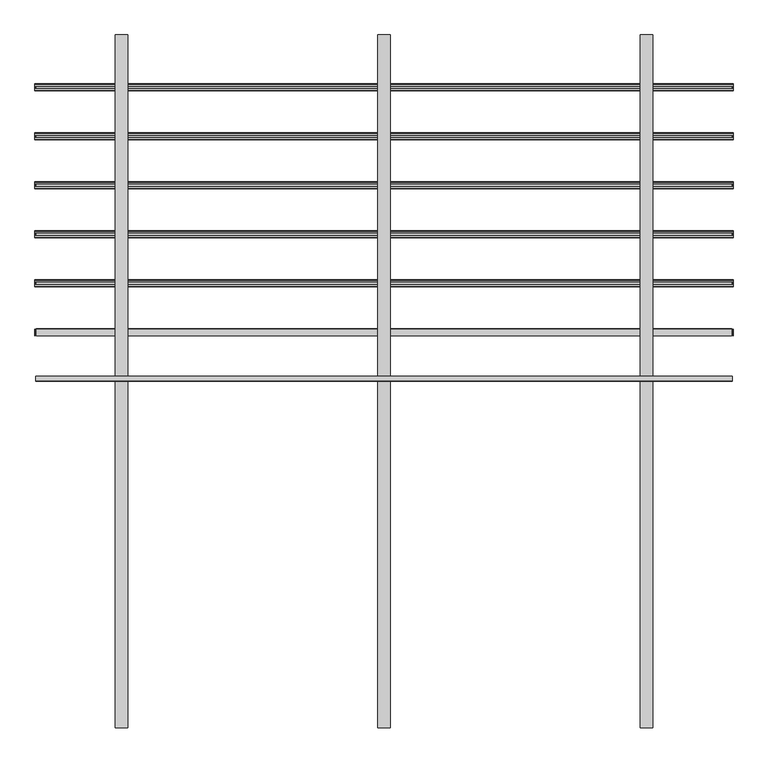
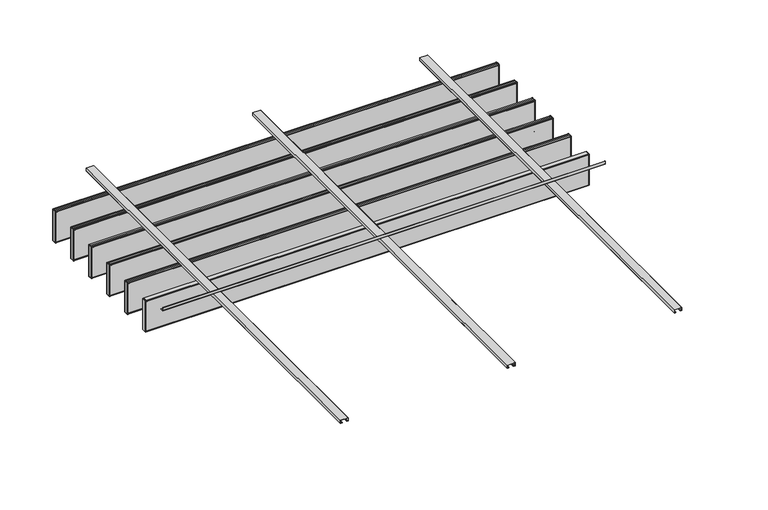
"""IFC4 building model written with IfcOpenShell, lengths in millimetres: proxy geometry, durlum_POLYLAM_KS : durlum_POLYLAM-KS/-S 40 RV-L6."""

from ifc_helpers import new_model, si_unit, point, frame, frame_2d, origin, place, context, project, spatial, polyline, circle_curve, trimmed, segment, composite_curve, outline, extrude, source, transform, mapped, element, save
from ifc_brep_helpers import plane_surface, cylinder_surface, advanced_brep


def generic_models_4996d795(model_context):
    return source(origin(), model_context, "Body", "SolidModel", [
        extrude(outline(polyline([(2027.0, 20.5), (2020.0, 20.5), (2020.0, 35.0), (2050.0, 35.0), (2050.0, -35.0), (2020.0, -35.0), (2020.0, -20.5), (2027.0, -20.5), (2027.0, -22.0), (2021.5, -22.0), (2021.5, -33.5), (2048.5, -33.5), (2048.5, 33.5), (2021.5, 33.5), (2021.5, 22.0), (2027.0, 22.0), (2027.0, 20.5)])), frame((0.0, -1980.0, 0.0), z_axis=(0.0, 1.0, 0.0), x_axis=(0.0, 0.0, 1.0)), (0.0, 0.0, 1.0), 3960.0),
        extrude(outline(polyline([(2027.0, -1479.5), (2020.0, -1479.5), (2020.0, -1465.0), (2050.0, -1465.0), (2050.0, -1535.0), (2020.0, -1535.0), (2020.0, -1520.5), (2027.0, -1520.5), (2027.0, -1522.0), (2021.5, -1522.0), (2021.5, -1533.5), (2048.5, -1533.5), (2048.5, -1466.5), (2021.5, -1466.5), (2021.5, -1478.0), (2027.0, -1478.0), (2027.0, -1479.5)])), frame((0.0, -1980.0, 0.0), z_axis=(0.0, 1.0, 0.0), x_axis=(0.0, 0.0, 1.0)), (0.0, 0.0, 1.0), 3960.0),
        extrude(outline(polyline([(2027.0, 1520.5), (2020.0, 1520.5), (2020.0, 1535.0), (2050.0, 1535.0), (2050.0, 1465.0), (2020.0, 1465.0), (2020.0, 1479.5), (2027.0, 1479.5), (2027.0, 1478.0), (2021.5, 1478.0), (2021.5, 1466.5), (2048.5, 1466.5), (2048.5, 1533.5), (2021.5, 1533.5), (2021.5, 1522.0), (2027.0, 1522.0), (2027.0, 1520.5)])), frame((0.0, -1980.0, 0.0), z_axis=(0.0, 1.0, 0.0), x_axis=(0.0, 0.0, 1.0)), (0.0, 0.0, 1.0), 3960.0),
        extrude(outline(composite_curve([segment(polyline([(2.0, 2079.9), (2.0, 2054.0)]), True, "CONTINUOUS"), segment(trimmed(circle_curve(frame_2d((4.0, 2054.0)), 2.0), [point((2.0, 2054.0))], [point((4.0, 2052.0))], True, "CARTESIAN"), True, "CONTINUOUS"), segment(polyline([(4.0, 2052.0), (29.9, 2052.0), (29.9, 2050.0), (4.0, 2050.0)]), True, "CONTINUOUS"), segment(trimmed(circle_curve(frame_2d((4.0, 2054.0)), 4.0), [point((4.0, 2050.0))], [point((0.0, 2054.0))], False, "CARTESIAN"), True, "CONTINUOUS"), segment(polyline([(0.0, 2054.0), (0.0, 2079.9), (2.0, 2079.9)]), True, "CONTINUOUS")], self_intersect=False)), frame((-1990.0, 0.0, 0.0), z_axis=(1.0, 0.0, 0.0), x_axis=(0.0, 1.0, 0.0)), (0.0, 0.0, 1.0), 3980.0),
        extrude(outline(polyline([(1993.0, 1699.0), (1995.0, 1699.0), (1995.0, 1661.0), (1993.0, 1661.0), (1993.0, 1699.0)])), frame((0.0, 0.0, 1691.9), z_axis=(0.0, 0.0, 1.0), x_axis=(1.0, 0.0, 0.0)), (0.0, 0.0, 1.0), 298.1604454),
        extrude(outline(polyline([(-1995.0, 1699.0), (-1993.0, 1699.0), (-1993.0, 1661.0), (-1995.0, 1661.0), (-1995.0, 1699.0)])), frame((0.0, 0.0, 1691.9), z_axis=(0.0, 0.0, 1.0), x_axis=(1.0, 0.0, 0.0)), (0.0, 0.0, 1.0), 298.1604454),
        extrude(outline(polyline([(1986.5, 1699.0), (1986.5, 1661.0), (-1986.5, 1661.0), (-1986.5, 1699.0), (1986.5, 1699.0)])), frame((0.0, 0.0, 1691.9), z_axis=(0.0, 0.0, 1.0), x_axis=(1.0, 0.0, 0.0)), (0.0, 0.0, 1.0), 298.0),
        extrude(outline(polyline([(1986.5, 1699.0), (-1986.5, 1699.0), (-1986.5, 1700.0), (1986.5, 1700.0), (1986.5, 1699.0)])), frame((0.0, 0.0, 1699.4), z_axis=(0.0, 0.0, 1.0), x_axis=(1.0, 0.0, 0.0)), (0.0, 0.0, 1.0), 283.0),
        extrude(outline(polyline([(1986.5, 1660.0), (-1986.5, 1660.0), (-1986.5, 1661.0), (1986.5, 1661.0), (1986.5, 1660.0)])), frame((0.0, 0.0, 1699.4), z_axis=(0.0, 0.0, 1.0), x_axis=(1.0, 0.0, 0.0)), (0.0, 0.0, 1.0), 283.0),
        advanced_brep(
        [(1995.0, 1698.0, 1990.9), (1995.0, 1688.0, 1990.9), (1995.0, 1688.0, 1990.0604454), (1995.0, 1699.0, 1990.0604454), (1995.0, 1699.0, 1691.9), (1995.0, 1661.0, 1691.9), (1995.0, 1661.0, 1989.8155735), (1995.0, 1672.0, 1989.8155735), (1995.0, 1672.0, 1990.9), (1995.0, 1662.0, 1990.9), (1995.0, 1660.0, 1988.9), (1995.0, 1660.0, 1692.9), (1995.0, 1662.0, 1690.9), (1995.0, 1698.0, 1690.9), (1995.0, 1700.0, 1692.9), (1995.0, 1700.0, 1988.9), (-1995.0, 1698.0, 1990.9), (-1995.0, 1700.0, 1988.9), (-1995.0, 1700.0, 1692.9), (-1995.0, 1698.0, 1690.9), (-1995.0, 1662.0, 1690.9), (-1995.0, 1660.0, 1692.9), (-1995.0, 1660.0, 1988.9), (-1995.0, 1662.0, 1990.9), (-1995.0, 1672.0, 1990.9), (-1995.0, 1672.0, 1989.8155735), (-1995.0, 1661.0, 1989.8155735), (-1995.0, 1661.0, 1691.9), (-1995.0, 1699.0, 1691.9), (-1995.0, 1699.0, 1990.0604454), (-1995.0, 1688.0, 1990.0604454), (-1995.0, 1688.0, 1990.9), (-1986.5, 1699.0, 1982.4), (1986.5, 1699.0, 1982.4), (1986.5, 1699.0, 1699.4), (-1986.5, 1699.0, 1699.4), (1986.5, 1661.0, 1982.4), (-1986.5, 1661.0, 1982.4), (-1986.5, 1661.0, 1699.4), (1986.5, 1661.0, 1699.4), (-1986.5, 1660.0, 1982.4), (1986.5, 1660.0, 1982.4), (1986.5, 1660.0, 1699.4), (-1986.5, 1660.0, 1699.4), (1986.5, 1700.0, 1982.4), (-1986.5, 1700.0, 1982.4), (-1986.5, 1700.0, 1699.4), (1986.5, 1700.0, 1699.4)],
        [
            (0, 1),
            (1, 2),
            (2, 3),
            (3, 4),
            (4, 5),
            (5, 6),
            (6, 7),
            (7, 8),
            (8, 9),
            (9, 10, circle_curve(frame((1995.0, 1662.0, 1988.9), z_axis=(1.0, 0.0, 0.0), x_axis=(0.0, 1.0, 0.0)), 2.0)),
            (10, 11),
            (11, 12, circle_curve(frame((1995.0, 1662.0, 1692.9), z_axis=(1.0, 0.0, 0.0), x_axis=(0.0, 1.0, 0.0)), 2.0)),
            (12, 13),
            (13, 14, circle_curve(frame((1995.0, 1698.0, 1692.9), z_axis=(1.0, 0.0, 0.0), x_axis=(0.0, 1.0, 0.0)), 2.0)),
            (14, 15),
            (15, 0, circle_curve(frame((1995.0, 1698.0, 1988.9), z_axis=(1.0, 0.0, 0.0), x_axis=(0.0, 1.0, 0.0)), 2.0)),
            (16, 17, circle_curve(frame((-1995.0, 1698.0, 1988.9), z_axis=(-1.0, 0.0, 0.0), x_axis=(0.0, 1.0, 0.0)), 2.0)),
            (17, 18),
            (18, 19, circle_curve(frame((-1995.0, 1698.0, 1692.9), z_axis=(-1.0, 0.0, 0.0), x_axis=(0.0, 1.0, 0.0)), 2.0)),
            (19, 20),
            (20, 21, circle_curve(frame((-1995.0, 1662.0, 1692.9), z_axis=(-1.0, 0.0, 0.0), x_axis=(0.0, 1.0, 0.0)), 2.0)),
            (21, 22),
            (22, 23, circle_curve(frame((-1995.0, 1662.0, 1988.9), z_axis=(-1.0, 0.0, 0.0), x_axis=(0.0, 1.0, 0.0)), 2.0)),
            (23, 24),
            (24, 25),
            (25, 26),
            (26, 27),
            (27, 28),
            (28, 29),
            (29, 30),
            (30, 31),
            (31, 16),
            (0, 16),
            (31, 1),
            (30, 2),
            (29, 3),
            (28, 4),
            (32, 33),
            (33, 34),
            (34, 35),
            (35, 32),
            (27, 5),
            (26, 6),
            (36, 37),
            (37, 38),
            (38, 39),
            (39, 36),
            (25, 7),
            (24, 8),
            (23, 9),
            (10, 22),
            (21, 11),
            (40, 41),
            (41, 42),
            (42, 43),
            (43, 40),
            (12, 20),
            (19, 13),
            (14, 18),
            (17, 15),
            (44, 45),
            (45, 46),
            (46, 47),
            (47, 44),
            (44, 33),
            (32, 45),
            (36, 41),
            (40, 37),
            (35, 46),
            (43, 38),
            (34, 47),
            (42, 39),
        ],
        [
            plane_surface(frame((1995.0, 1688.0, 1990.9), z_axis=(1.0, 0.0, 0.0), x_axis=(0.0, -1.0, 0.0))),
            plane_surface(frame((-1995.0, 1688.0, 1990.9), z_axis=(-1.0, 0.0, 0.0), x_axis=(0.0, 1.0, 0.0))),
            plane_surface(frame((1995.0, 1698.0, 1990.9), z_axis=(0.0, 0.0, 1.0), x_axis=(-1.0, 0.0, 0.0))),
            plane_surface(frame((1995.0, 1688.0, 1990.9), z_axis=(0.0, -1.0, 0.0), x_axis=(-1.0, 0.0, 0.0))),
            plane_surface(frame((1995.0, 1688.0, 1990.0604454), z_axis=(0.0, 0.0, -1.0), x_axis=(-1.0, 0.0, 0.0))),
            plane_surface(frame((1995.0, 1699.0, 1990.0604454), z_axis=(0.0, -1.0, 0.0), x_axis=(-1.0, 0.0, 0.0))),
            plane_surface(frame((1995.0, 1699.0, 1691.9), z_axis=(0.0, 0.0, 1.0), x_axis=(-1.0, 0.0, 0.0))),
            plane_surface(frame((1995.0, 1661.0, 1691.9), z_axis=(0.0, 1.0, 0.0), x_axis=(-1.0, 0.0, 0.0))),
            plane_surface(frame((1995.0, 1661.0, 1989.8155735), z_axis=(0.0, 0.0, -1.0), x_axis=(-1.0, 0.0, 0.0))),
            plane_surface(frame((1995.0, 1672.0, 1989.8155735), z_axis=(0.0, 1.0, 0.0), x_axis=(-1.0, 0.0, 0.0))),
            plane_surface(frame((1995.0, 1672.0, 1990.9), z_axis=(0.0, 0.0, 1.0), x_axis=(-1.0, 0.0, 0.0))),
            plane_surface(frame((1995.0, 1660.0, 1988.9), z_axis=(0.0, -1.0, 0.0), x_axis=(-1.0, 0.0, 0.0))),
            plane_surface(frame((1995.0, 1662.0, 1690.9), z_axis=(0.0, 0.0, -1.0), x_axis=(-1.0, 0.0, 0.0))),
            plane_surface(frame((1995.0, 1700.0, 1692.9), z_axis=(0.0, 1.0, 0.0), x_axis=(-1.0, 0.0, 0.0))),
            cylinder_surface(frame((-1995.0, 1662.0, 1988.9), z_axis=(1.0, 0.0, 0.0), x_axis=(0.0, 1.0, 0.0)), 2.0),
            cylinder_surface(frame((-1995.0, 1662.0, 1692.9), z_axis=(1.0, 0.0, 0.0), x_axis=(0.0, 1.0, 0.0)), 2.0),
            cylinder_surface(frame((-1995.0, 1698.0, 1692.9), z_axis=(1.0, 0.0, 0.0), x_axis=(0.0, 1.0, 0.0)), 2.0),
            cylinder_surface(frame((-1995.0, 1698.0, 1988.9), z_axis=(1.0, 0.0, 0.0), x_axis=(0.0, 1.0, 0.0)), 2.0),
            plane_surface(frame((1986.5, 1660.0, 1982.4), z_axis=(0.0, 0.0, -1.0), x_axis=(0.0, 1.0, 0.0))),
            plane_surface(frame((-1986.5, 1660.0, 1982.4), z_axis=(1.0, 0.0, 0.0), x_axis=(0.0, 1.0, 0.0))),
            plane_surface(frame((-1986.5, 1660.0, 1699.4), z_axis=(0.0, 0.0, 1.0), x_axis=(0.0, 1.0, 0.0))),
            plane_surface(frame((1986.5, 1660.0, 1699.4), z_axis=(-1.0, 0.0, 0.0), x_axis=(0.0, 1.0, 0.0))),
        ],
        [
            (0, [[1, 2, 3, 4, 5, 6, 7, 8, 9, 10, 11, 12, 13, 14, 15, 16]]),
            (1, [[17, 18, 19, 20, 21, 22, 23, 24, 25, 26, 27, 28, 29, 30, 31, 32]]),
            (2, [[-1, 33, -32, 34]]),
            (3, [[-2, -34, -31, 35]]),
            (4, [[-3, -35, -30, 36]]),
            (5, [[-4, -36, -29, 37], [38, 39, 40, 41]]),
            (6, [[-5, -37, -28, 42]]),
            (7, [[-6, -42, -27, 43], [44, 45, 46, 47]]),
            (8, [[-7, -43, -26, 48]]),
            (9, [[-8, -48, -25, 49]]),
            (10, [[-9, -49, -24, 50]]),
            (11, [[-11, 51, -22, 52], [53, 54, 55, 56]]),
            (12, [[-13, 57, -20, 58]]),
            (13, [[-15, 59, -18, 60], [61, 62, 63, 64]]),
            (14, [[-10, -50, -23, -51]]),
            (15, [[-12, -52, -21, -57]]),
            (16, [[-14, -58, -19, -59]]),
            (17, [[-16, -60, -17, -33]]),
            (18, [[65, -38, 66, -61]]),
            (18, [[67, -53, 68, -44]]),
            (19, [[-66, -41, 69, -62]]),
            (19, [[-68, -56, 70, -45]]),
            (20, [[-69, -40, 71, -63]]),
            (20, [[-70, -55, 72, -46]]),
            (21, [[-65, -64, -71, -39]]),
            (21, [[-67, -47, -72, -54]]),
        ],
    ),
        extrude(outline(polyline([(1993.0, 1419.0), (1995.0, 1419.0), (1995.0, 1381.0), (1993.0, 1381.0), (1993.0, 1419.0)])), frame((0.0, 0.0, 1691.9), z_axis=(0.0, 0.0, 1.0), x_axis=(1.0, 0.0, 0.0)), (0.0, 0.0, 1.0), 298.1604454),
        extrude(outline(polyline([(-1995.0, 1419.0), (-1993.0, 1419.0), (-1993.0, 1381.0), (-1995.0, 1381.0), (-1995.0, 1419.0)])), frame((0.0, 0.0, 1691.9), z_axis=(0.0, 0.0, 1.0), x_axis=(1.0, 0.0, 0.0)), (0.0, 0.0, 1.0), 298.1604454),
        extrude(outline(polyline([(1986.5, 1419.0), (1986.5, 1381.0), (-1986.5, 1381.0), (-1986.5, 1419.0), (1986.5, 1419.0)])), frame((0.0, 0.0, 1691.9), z_axis=(0.0, 0.0, 1.0), x_axis=(1.0, 0.0, 0.0)), (0.0, 0.0, 1.0), 298.0),
        extrude(outline(polyline([(1986.5, 1419.0), (-1986.5, 1419.0), (-1986.5, 1420.0), (1986.5, 1420.0), (1986.5, 1419.0)])), frame((0.0, 0.0, 1699.4), z_axis=(0.0, 0.0, 1.0), x_axis=(1.0, 0.0, 0.0)), (0.0, 0.0, 1.0), 283.0),
        extrude(outline(polyline([(1986.5, 1380.0), (-1986.5, 1380.0), (-1986.5, 1381.0), (1986.5, 1381.0), (1986.5, 1380.0)])), frame((0.0, 0.0, 1699.4), z_axis=(0.0, 0.0, 1.0), x_axis=(1.0, 0.0, 0.0)), (0.0, 0.0, 1.0), 283.0),
        advanced_brep(
        [(1995.0, 1418.0, 1990.9), (1995.0, 1408.0, 1990.9), (1995.0, 1408.0, 1990.0604454), (1995.0, 1419.0, 1990.0604454), (1995.0, 1419.0, 1691.9), (1995.0, 1381.0, 1691.9), (1995.0, 1381.0, 1989.8155735), (1995.0, 1392.0, 1989.8155735), (1995.0, 1392.0, 1990.9), (1995.0, 1382.0, 1990.9), (1995.0, 1380.0, 1988.9), (1995.0, 1380.0, 1692.9), (1995.0, 1382.0, 1690.9), (1995.0, 1418.0, 1690.9), (1995.0, 1420.0, 1692.9), (1995.0, 1420.0, 1988.9), (-1995.0, 1418.0, 1990.9), (-1995.0, 1420.0, 1988.9), (-1995.0, 1420.0, 1692.9), (-1995.0, 1418.0, 1690.9), (-1995.0, 1382.0, 1690.9), (-1995.0, 1380.0, 1692.9), (-1995.0, 1380.0, 1988.9), (-1995.0, 1382.0, 1990.9), (-1995.0, 1392.0, 1990.9), (-1995.0, 1392.0, 1989.8155735), (-1995.0, 1381.0, 1989.8155735), (-1995.0, 1381.0, 1691.9), (-1995.0, 1419.0, 1691.9), (-1995.0, 1419.0, 1990.0604454), (-1995.0, 1408.0, 1990.0604454), (-1995.0, 1408.0, 1990.9), (-1986.5, 1419.0, 1982.4), (1986.5, 1419.0, 1982.4), (1986.5, 1419.0, 1699.4), (-1986.5, 1419.0, 1699.4), (1986.5, 1381.0, 1982.4), (-1986.5, 1381.0, 1982.4), (-1986.5, 1381.0, 1699.4), (1986.5, 1381.0, 1699.4), (-1986.5, 1380.0, 1982.4), (1986.5, 1380.0, 1982.4), (1986.5, 1380.0, 1699.4), (-1986.5, 1380.0, 1699.4), (1986.5, 1420.0, 1982.4), (-1986.5, 1420.0, 1982.4), (-1986.5, 1420.0, 1699.4), (1986.5, 1420.0, 1699.4)],
        [
            (0, 1),
            (1, 2),
            (2, 3),
            (3, 4),
            (4, 5),
            (5, 6),
            (6, 7),
            (7, 8),
            (8, 9),
            (9, 10, circle_curve(frame((1995.0, 1382.0, 1988.9), z_axis=(1.0, 0.0, 0.0), x_axis=(0.0, 1.0, 0.0)), 2.0)),
            (10, 11),
            (11, 12, circle_curve(frame((1995.0, 1382.0, 1692.9), z_axis=(1.0, 0.0, 0.0), x_axis=(0.0, 1.0, 0.0)), 2.0)),
            (12, 13),
            (13, 14, circle_curve(frame((1995.0, 1418.0, 1692.9), z_axis=(1.0, 0.0, 0.0), x_axis=(0.0, 1.0, 0.0)), 2.0)),
            (14, 15),
            (15, 0, circle_curve(frame((1995.0, 1418.0, 1988.9), z_axis=(1.0, 0.0, 0.0), x_axis=(0.0, 1.0, 0.0)), 2.0)),
            (16, 17, circle_curve(frame((-1995.0, 1418.0, 1988.9), z_axis=(-1.0, 0.0, 0.0), x_axis=(0.0, 1.0, 0.0)), 2.0)),
            (17, 18),
            (18, 19, circle_curve(frame((-1995.0, 1418.0, 1692.9), z_axis=(-1.0, 0.0, 0.0), x_axis=(0.0, 1.0, 0.0)), 2.0)),
            (19, 20),
            (20, 21, circle_curve(frame((-1995.0, 1382.0, 1692.9), z_axis=(-1.0, 0.0, 0.0), x_axis=(0.0, 1.0, 0.0)), 2.0)),
            (21, 22),
            (22, 23, circle_curve(frame((-1995.0, 1382.0, 1988.9), z_axis=(-1.0, 0.0, 0.0), x_axis=(0.0, 1.0, 0.0)), 2.0)),
            (23, 24),
            (24, 25),
            (25, 26),
            (26, 27),
            (27, 28),
            (28, 29),
            (29, 30),
            (30, 31),
            (31, 16),
            (0, 16),
            (31, 1),
            (30, 2),
            (29, 3),
            (28, 4),
            (32, 33),
            (33, 34),
            (34, 35),
            (35, 32),
            (27, 5),
            (26, 6),
            (36, 37),
            (37, 38),
            (38, 39),
            (39, 36),
            (25, 7),
            (24, 8),
            (23, 9),
            (10, 22),
            (21, 11),
            (40, 41),
            (41, 42),
            (42, 43),
            (43, 40),
            (12, 20),
            (19, 13),
            (14, 18),
            (17, 15),
            (44, 45),
            (45, 46),
            (46, 47),
            (47, 44),
            (44, 33),
            (32, 45),
            (36, 41),
            (40, 37),
            (35, 46),
            (43, 38),
            (34, 47),
            (42, 39),
        ],
        [
            plane_surface(frame((1995.0, 1408.0, 1990.9), z_axis=(1.0, 0.0, 0.0), x_axis=(0.0, -1.0, 0.0))),
            plane_surface(frame((-1995.0, 1408.0, 1990.9), z_axis=(-1.0, 0.0, 0.0), x_axis=(0.0, 1.0, 0.0))),
            plane_surface(frame((1995.0, 1418.0, 1990.9), z_axis=(0.0, 0.0, 1.0), x_axis=(-1.0, 0.0, 0.0))),
            plane_surface(frame((1995.0, 1408.0, 1990.9), z_axis=(0.0, -1.0, 0.0), x_axis=(-1.0, 0.0, 0.0))),
            plane_surface(frame((1995.0, 1408.0, 1990.0604454), z_axis=(0.0, 0.0, -1.0), x_axis=(-1.0, 0.0, 0.0))),
            plane_surface(frame((1995.0, 1419.0, 1990.0604454), z_axis=(0.0, -1.0, 0.0), x_axis=(-1.0, 0.0, 0.0))),
            plane_surface(frame((1995.0, 1419.0, 1691.9), z_axis=(0.0, 0.0, 1.0), x_axis=(-1.0, 0.0, 0.0))),
            plane_surface(frame((1995.0, 1381.0, 1691.9), z_axis=(0.0, 1.0, 0.0), x_axis=(-1.0, 0.0, 0.0))),
            plane_surface(frame((1995.0, 1381.0, 1989.8155735), z_axis=(0.0, 0.0, -1.0), x_axis=(-1.0, 0.0, 0.0))),
            plane_surface(frame((1995.0, 1392.0, 1989.8155735), z_axis=(0.0, 1.0, 0.0), x_axis=(-1.0, 0.0, 0.0))),
            plane_surface(frame((1995.0, 1392.0, 1990.9), z_axis=(0.0, 0.0, 1.0), x_axis=(-1.0, 0.0, 0.0))),
            plane_surface(frame((1995.0, 1380.0, 1988.9), z_axis=(0.0, -1.0, 0.0), x_axis=(-1.0, 0.0, 0.0))),
            plane_surface(frame((1995.0, 1382.0, 1690.9), z_axis=(0.0, 0.0, -1.0), x_axis=(-1.0, 0.0, 0.0))),
            plane_surface(frame((1995.0, 1420.0, 1692.9), z_axis=(0.0, 1.0, 0.0), x_axis=(-1.0, 0.0, 0.0))),
            cylinder_surface(frame((-1995.0, 1382.0, 1988.9), z_axis=(1.0, 0.0, 0.0), x_axis=(0.0, 1.0, 0.0)), 2.0),
            cylinder_surface(frame((-1995.0, 1382.0, 1692.9), z_axis=(1.0, 0.0, 0.0), x_axis=(0.0, 1.0, 0.0)), 2.0),
            cylinder_surface(frame((-1995.0, 1418.0, 1692.9), z_axis=(1.0, 0.0, 0.0), x_axis=(0.0, 1.0, 0.0)), 2.0),
            cylinder_surface(frame((-1995.0, 1418.0, 1988.9), z_axis=(1.0, 0.0, 0.0), x_axis=(0.0, 1.0, 0.0)), 2.0),
            plane_surface(frame((1986.5, 1380.0, 1982.4), z_axis=(0.0, 0.0, -1.0), x_axis=(0.0, 1.0, 0.0))),
            plane_surface(frame((-1986.5, 1380.0, 1982.4), z_axis=(1.0, 0.0, 0.0), x_axis=(0.0, 1.0, 0.0))),
            plane_surface(frame((-1986.5, 1380.0, 1699.4), z_axis=(0.0, 0.0, 1.0), x_axis=(0.0, 1.0, 0.0))),
            plane_surface(frame((1986.5, 1380.0, 1699.4), z_axis=(-1.0, 0.0, 0.0), x_axis=(0.0, 1.0, 0.0))),
        ],
        [
            (0, [[1, 2, 3, 4, 5, 6, 7, 8, 9, 10, 11, 12, 13, 14, 15, 16]]),
            (1, [[17, 18, 19, 20, 21, 22, 23, 24, 25, 26, 27, 28, 29, 30, 31, 32]]),
            (2, [[-1, 33, -32, 34]]),
            (3, [[-2, -34, -31, 35]]),
            (4, [[-3, -35, -30, 36]]),
            (5, [[-4, -36, -29, 37], [38, 39, 40, 41]]),
            (6, [[-5, -37, -28, 42]]),
            (7, [[-6, -42, -27, 43], [44, 45, 46, 47]]),
            (8, [[-7, -43, -26, 48]]),
            (9, [[-8, -48, -25, 49]]),
            (10, [[-9, -49, -24, 50]]),
            (11, [[-11, 51, -22, 52], [53, 54, 55, 56]]),
            (12, [[-13, 57, -20, 58]]),
            (13, [[-15, 59, -18, 60], [61, 62, 63, 64]]),
            (14, [[-10, -50, -23, -51]]),
            (15, [[-12, -52, -21, -57]]),
            (16, [[-14, -58, -19, -59]]),
            (17, [[-16, -60, -17, -33]]),
            (18, [[65, -38, 66, -61]]),
            (18, [[67, -53, 68, -44]]),
            (19, [[-66, -41, 69, -62]]),
            (19, [[-68, -56, 70, -45]]),
            (20, [[-69, -40, 71, -63]]),
            (20, [[-70, -55, 72, -46]]),
            (21, [[-65, -64, -71, -39]]),
            (21, [[-67, -47, -72, -54]]),
        ],
    ),
        extrude(outline(polyline([(1993.0, 1139.0), (1995.0, 1139.0), (1995.0, 1101.0), (1993.0, 1101.0), (1993.0, 1139.0)])), frame((0.0, 0.0, 1691.9), z_axis=(0.0, 0.0, 1.0), x_axis=(1.0, 0.0, 0.0)), (0.0, 0.0, 1.0), 298.1604454),
        extrude(outline(polyline([(-1995.0, 1139.0), (-1993.0, 1139.0), (-1993.0, 1101.0), (-1995.0, 1101.0), (-1995.0, 1139.0)])), frame((0.0, 0.0, 1691.9), z_axis=(0.0, 0.0, 1.0), x_axis=(1.0, 0.0, 0.0)), (0.0, 0.0, 1.0), 298.1604454),
        extrude(outline(polyline([(1986.5, 1139.0), (1986.5, 1101.0), (-1986.5, 1101.0), (-1986.5, 1139.0), (1986.5, 1139.0)])), frame((0.0, 0.0, 1691.9), z_axis=(0.0, 0.0, 1.0), x_axis=(1.0, 0.0, 0.0)), (0.0, 0.0, 1.0), 298.0),
        extrude(outline(polyline([(1986.5, 1139.0), (-1986.5, 1139.0), (-1986.5, 1140.0), (1986.5, 1140.0), (1986.5, 1139.0)])), frame((0.0, 0.0, 1699.4), z_axis=(0.0, 0.0, 1.0), x_axis=(1.0, 0.0, 0.0)), (0.0, 0.0, 1.0), 283.0),
        extrude(outline(polyline([(1986.5, 1100.0), (-1986.5, 1100.0), (-1986.5, 1101.0), (1986.5, 1101.0), (1986.5, 1100.0)])), frame((0.0, 0.0, 1699.4), z_axis=(0.0, 0.0, 1.0), x_axis=(1.0, 0.0, 0.0)), (0.0, 0.0, 1.0), 283.0),
        advanced_brep(
        [(1995.0, 1138.0, 1990.9), (1995.0, 1128.0, 1990.9), (1995.0, 1128.0, 1990.0604454), (1995.0, 1139.0, 1990.0604454), (1995.0, 1139.0, 1691.9), (1995.0, 1101.0, 1691.9), (1995.0, 1101.0, 1989.8155735), (1995.0, 1112.0, 1989.8155735), (1995.0, 1112.0, 1990.9), (1995.0, 1102.0, 1990.9), (1995.0, 1100.0, 1988.9), (1995.0, 1100.0, 1692.9), (1995.0, 1102.0, 1690.9), (1995.0, 1138.0, 1690.9), (1995.0, 1140.0, 1692.9), (1995.0, 1140.0, 1988.9), (-1995.0, 1138.0, 1990.9), (-1995.0, 1140.0, 1988.9), (-1995.0, 1140.0, 1692.9), (-1995.0, 1138.0, 1690.9), (-1995.0, 1102.0, 1690.9), (-1995.0, 1100.0, 1692.9), (-1995.0, 1100.0, 1988.9), (-1995.0, 1102.0, 1990.9), (-1995.0, 1112.0, 1990.9), (-1995.0, 1112.0, 1989.8155735), (-1995.0, 1101.0, 1989.8155735), (-1995.0, 1101.0, 1691.9), (-1995.0, 1139.0, 1691.9), (-1995.0, 1139.0, 1990.0604454), (-1995.0, 1128.0, 1990.0604454), (-1995.0, 1128.0, 1990.9), (-1986.5, 1139.0, 1982.4), (1986.5, 1139.0, 1982.4), (1986.5, 1139.0, 1699.4), (-1986.5, 1139.0, 1699.4), (1986.5, 1101.0, 1982.4), (-1986.5, 1101.0, 1982.4), (-1986.5, 1101.0, 1699.4), (1986.5, 1101.0, 1699.4), (-1986.5, 1100.0, 1982.4), (1986.5, 1100.0, 1982.4), (1986.5, 1100.0, 1699.4), (-1986.5, 1100.0, 1699.4), (1986.5, 1140.0, 1982.4), (-1986.5, 1140.0, 1982.4), (-1986.5, 1140.0, 1699.4), (1986.5, 1140.0, 1699.4)],
        [
            (0, 1),
            (1, 2),
            (2, 3),
            (3, 4),
            (4, 5),
            (5, 6),
            (6, 7),
            (7, 8),
            (8, 9),
            (9, 10, circle_curve(frame((1995.0, 1102.0, 1988.9), z_axis=(1.0, 0.0, 0.0), x_axis=(0.0, 1.0, 0.0)), 2.0)),
            (10, 11),
            (11, 12, circle_curve(frame((1995.0, 1102.0, 1692.9), z_axis=(1.0, 0.0, 0.0), x_axis=(0.0, 1.0, 0.0)), 2.0)),
            (12, 13),
            (13, 14, circle_curve(frame((1995.0, 1138.0, 1692.9), z_axis=(1.0, 0.0, 0.0), x_axis=(0.0, 1.0, 0.0)), 2.0)),
            (14, 15),
            (15, 0, circle_curve(frame((1995.0, 1138.0, 1988.9), z_axis=(1.0, 0.0, 0.0), x_axis=(0.0, 1.0, 0.0)), 2.0)),
            (16, 17, circle_curve(frame((-1995.0, 1138.0, 1988.9), z_axis=(-1.0, 0.0, 0.0), x_axis=(0.0, 1.0, 0.0)), 2.0)),
            (17, 18),
            (18, 19, circle_curve(frame((-1995.0, 1138.0, 1692.9), z_axis=(-1.0, 0.0, 0.0), x_axis=(0.0, 1.0, 0.0)), 2.0)),
            (19, 20),
            (20, 21, circle_curve(frame((-1995.0, 1102.0, 1692.9), z_axis=(-1.0, 0.0, 0.0), x_axis=(0.0, 1.0, 0.0)), 2.0)),
            (21, 22),
            (22, 23, circle_curve(frame((-1995.0, 1102.0, 1988.9), z_axis=(-1.0, 0.0, 0.0), x_axis=(0.0, 1.0, 0.0)), 2.0)),
            (23, 24),
            (24, 25),
            (25, 26),
            (26, 27),
            (27, 28),
            (28, 29),
            (29, 30),
            (30, 31),
            (31, 16),
            (0, 16),
            (31, 1),
            (30, 2),
            (29, 3),
            (28, 4),
            (32, 33),
            (33, 34),
            (34, 35),
            (35, 32),
            (27, 5),
            (26, 6),
            (36, 37),
            (37, 38),
            (38, 39),
            (39, 36),
            (25, 7),
            (24, 8),
            (23, 9),
            (10, 22),
            (21, 11),
            (40, 41),
            (41, 42),
            (42, 43),
            (43, 40),
            (12, 20),
            (19, 13),
            (14, 18),
            (17, 15),
            (44, 45),
            (45, 46),
            (46, 47),
            (47, 44),
            (44, 33),
            (32, 45),
            (36, 41),
            (40, 37),
            (35, 46),
            (43, 38),
            (34, 47),
            (42, 39),
        ],
        [
            plane_surface(frame((1995.0, 1128.0, 1990.9), z_axis=(1.0, 0.0, 0.0), x_axis=(0.0, -1.0, 0.0))),
            plane_surface(frame((-1995.0, 1128.0, 1990.9), z_axis=(-1.0, 0.0, 0.0), x_axis=(0.0, 1.0, 0.0))),
            plane_surface(frame((1995.0, 1138.0, 1990.9), z_axis=(0.0, 0.0, 1.0), x_axis=(-1.0, 0.0, 0.0))),
            plane_surface(frame((1995.0, 1128.0, 1990.9), z_axis=(0.0, -1.0, 0.0), x_axis=(-1.0, 0.0, 0.0))),
            plane_surface(frame((1995.0, 1128.0, 1990.0604454), z_axis=(0.0, 0.0, -1.0), x_axis=(-1.0, 0.0, 0.0))),
            plane_surface(frame((1995.0, 1139.0, 1990.0604454), z_axis=(0.0, -1.0, 0.0), x_axis=(-1.0, 0.0, 0.0))),
            plane_surface(frame((1995.0, 1139.0, 1691.9), z_axis=(0.0, 0.0, 1.0), x_axis=(-1.0, 0.0, 0.0))),
            plane_surface(frame((1995.0, 1101.0, 1691.9), z_axis=(0.0, 1.0, 0.0), x_axis=(-1.0, 0.0, 0.0))),
            plane_surface(frame((1995.0, 1101.0, 1989.8155735), z_axis=(0.0, 0.0, -1.0), x_axis=(-1.0, 0.0, 0.0))),
            plane_surface(frame((1995.0, 1112.0, 1989.8155735), z_axis=(0.0, 1.0, 0.0), x_axis=(-1.0, 0.0, 0.0))),
            plane_surface(frame((1995.0, 1112.0, 1990.9), z_axis=(0.0, 0.0, 1.0), x_axis=(-1.0, 0.0, 0.0))),
            plane_surface(frame((1995.0, 1100.0, 1988.9), z_axis=(0.0, -1.0, 0.0), x_axis=(-1.0, 0.0, 0.0))),
            plane_surface(frame((1995.0, 1102.0, 1690.9), z_axis=(0.0, 0.0, -1.0), x_axis=(-1.0, 0.0, 0.0))),
            plane_surface(frame((1995.0, 1140.0, 1692.9), z_axis=(0.0, 1.0, 0.0), x_axis=(-1.0, 0.0, 0.0))),
            cylinder_surface(frame((-1995.0, 1102.0, 1988.9), z_axis=(1.0, 0.0, 0.0), x_axis=(0.0, 1.0, 0.0)), 2.0),
            cylinder_surface(frame((-1995.0, 1102.0, 1692.9), z_axis=(1.0, 0.0, 0.0), x_axis=(0.0, 1.0, 0.0)), 2.0),
            cylinder_surface(frame((-1995.0, 1138.0, 1692.9), z_axis=(1.0, 0.0, 0.0), x_axis=(0.0, 1.0, 0.0)), 2.0),
            cylinder_surface(frame((-1995.0, 1138.0, 1988.9), z_axis=(1.0, 0.0, 0.0), x_axis=(0.0, 1.0, 0.0)), 2.0),
            plane_surface(frame((1986.5, 1100.0, 1982.4), z_axis=(0.0, 0.0, -1.0), x_axis=(0.0, 1.0, 0.0))),
            plane_surface(frame((-1986.5, 1100.0, 1982.4), z_axis=(1.0, 0.0, 0.0), x_axis=(0.0, 1.0, 0.0))),
            plane_surface(frame((-1986.5, 1100.0, 1699.4), z_axis=(0.0, 0.0, 1.0), x_axis=(0.0, 1.0, 0.0))),
            plane_surface(frame((1986.5, 1100.0, 1699.4), z_axis=(-1.0, 0.0, 0.0), x_axis=(0.0, 1.0, 0.0))),
        ],
        [
            (0, [[1, 2, 3, 4, 5, 6, 7, 8, 9, 10, 11, 12, 13, 14, 15, 16]]),
            (1, [[17, 18, 19, 20, 21, 22, 23, 24, 25, 26, 27, 28, 29, 30, 31, 32]]),
            (2, [[-1, 33, -32, 34]]),
            (3, [[-2, -34, -31, 35]]),
            (4, [[-3, -35, -30, 36]]),
            (5, [[-4, -36, -29, 37], [38, 39, 40, 41]]),
            (6, [[-5, -37, -28, 42]]),
            (7, [[-6, -42, -27, 43], [44, 45, 46, 47]]),
            (8, [[-7, -43, -26, 48]]),
            (9, [[-8, -48, -25, 49]]),
            (10, [[-9, -49, -24, 50]]),
            (11, [[-11, 51, -22, 52], [53, 54, 55, 56]]),
            (12, [[-13, 57, -20, 58]]),
            (13, [[-15, 59, -18, 60], [61, 62, 63, 64]]),
            (14, [[-10, -50, -23, -51]]),
            (15, [[-12, -52, -21, -57]]),
            (16, [[-14, -58, -19, -59]]),
            (17, [[-16, -60, -17, -33]]),
            (18, [[65, -38, 66, -61]]),
            (18, [[67, -53, 68, -44]]),
            (19, [[-66, -41, 69, -62]]),
            (19, [[-68, -56, 70, -45]]),
            (20, [[-69, -40, 71, -63]]),
            (20, [[-70, -55, 72, -46]]),
            (21, [[-65, -64, -71, -39]]),
            (21, [[-67, -47, -72, -54]]),
        ],
    ),
        extrude(outline(polyline([(1993.0, 859.0), (1995.0, 859.0), (1995.0, 821.0), (1993.0, 821.0), (1993.0, 859.0)])), frame((0.0, 0.0, 1691.9), z_axis=(0.0, 0.0, 1.0), x_axis=(1.0, 0.0, 0.0)), (0.0, 0.0, 1.0), 298.1604454),
        extrude(outline(polyline([(-1995.0, 859.0), (-1993.0, 859.0), (-1993.0, 821.0), (-1995.0, 821.0), (-1995.0, 859.0)])), frame((0.0, 0.0, 1691.9), z_axis=(0.0, 0.0, 1.0), x_axis=(1.0, 0.0, 0.0)), (0.0, 0.0, 1.0), 298.1604454),
        extrude(outline(polyline([(1986.5, 859.0), (1986.5, 821.0), (-1986.5, 821.0), (-1986.5, 859.0), (1986.5, 859.0)])), frame((0.0, 0.0, 1691.9), z_axis=(0.0, 0.0, 1.0), x_axis=(1.0, 0.0, 0.0)), (0.0, 0.0, 1.0), 298.0),
        extrude(outline(polyline([(1986.5, 859.0), (-1986.5, 859.0), (-1986.5, 860.0), (1986.5, 860.0), (1986.5, 859.0)])), frame((0.0, 0.0, 1699.4), z_axis=(0.0, 0.0, 1.0), x_axis=(1.0, 0.0, 0.0)), (0.0, 0.0, 1.0), 283.0),
        extrude(outline(polyline([(1986.5, 820.0), (-1986.5, 820.0), (-1986.5, 821.0), (1986.5, 821.0), (1986.5, 820.0)])), frame((0.0, 0.0, 1699.4), z_axis=(0.0, 0.0, 1.0), x_axis=(1.0, 0.0, 0.0)), (0.0, 0.0, 1.0), 283.0),
        advanced_brep(
        [(1995.0, 858.0, 1990.9), (1995.0, 848.0, 1990.9), (1995.0, 848.0, 1990.0604454), (1995.0, 859.0, 1990.0604454), (1995.0, 859.0, 1691.9), (1995.0, 821.0, 1691.9), (1995.0, 821.0, 1989.8155735), (1995.0, 832.0, 1989.8155735), (1995.0, 832.0, 1990.9), (1995.0, 822.0, 1990.9), (1995.0, 820.0, 1988.9), (1995.0, 820.0, 1692.9), (1995.0, 822.0, 1690.9), (1995.0, 858.0, 1690.9), (1995.0, 860.0, 1692.9), (1995.0, 860.0, 1988.9), (-1995.0, 858.0, 1990.9), (-1995.0, 860.0, 1988.9), (-1995.0, 860.0, 1692.9), (-1995.0, 858.0, 1690.9), (-1995.0, 822.0, 1690.9), (-1995.0, 820.0, 1692.9), (-1995.0, 820.0, 1988.9), (-1995.0, 822.0, 1990.9), (-1995.0, 832.0, 1990.9), (-1995.0, 832.0, 1989.8155735), (-1995.0, 821.0, 1989.8155735), (-1995.0, 821.0, 1691.9), (-1995.0, 859.0, 1691.9), (-1995.0, 859.0, 1990.0604454), (-1995.0, 848.0, 1990.0604454), (-1995.0, 848.0, 1990.9), (-1986.5, 859.0, 1982.4), (1986.5, 859.0, 1982.4), (1986.5, 859.0, 1699.4), (-1986.5, 859.0, 1699.4), (1986.5, 821.0, 1982.4), (-1986.5, 821.0, 1982.4), (-1986.5, 821.0, 1699.4), (1986.5, 821.0, 1699.4), (-1986.5, 820.0, 1982.4), (1986.5, 820.0, 1982.4), (1986.5, 820.0, 1699.4), (-1986.5, 820.0, 1699.4), (1986.5, 860.0, 1982.4), (-1986.5, 860.0, 1982.4), (-1986.5, 860.0, 1699.4), (1986.5, 860.0, 1699.4)],
        [
            (0, 1),
            (1, 2),
            (2, 3),
            (3, 4),
            (4, 5),
            (5, 6),
            (6, 7),
            (7, 8),
            (8, 9),
            (9, 10, circle_curve(frame((1995.0, 822.0, 1988.9), z_axis=(1.0, 0.0, 0.0), x_axis=(0.0, 1.0, 0.0)), 2.0)),
            (10, 11),
            (11, 12, circle_curve(frame((1995.0, 822.0, 1692.9), z_axis=(1.0, 0.0, 0.0), x_axis=(0.0, 1.0, 0.0)), 2.0)),
            (12, 13),
            (13, 14, circle_curve(frame((1995.0, 858.0, 1692.9), z_axis=(1.0, 0.0, 0.0), x_axis=(0.0, 1.0, 0.0)), 2.0)),
            (14, 15),
            (15, 0, circle_curve(frame((1995.0, 858.0, 1988.9), z_axis=(1.0, 0.0, 0.0), x_axis=(0.0, 1.0, 0.0)), 2.0)),
            (16, 17, circle_curve(frame((-1995.0, 858.0, 1988.9), z_axis=(-1.0, 0.0, 0.0), x_axis=(0.0, 1.0, 0.0)), 2.0)),
            (17, 18),
            (18, 19, circle_curve(frame((-1995.0, 858.0, 1692.9), z_axis=(-1.0, 0.0, 0.0), x_axis=(0.0, 1.0, 0.0)), 2.0)),
            (19, 20),
            (20, 21, circle_curve(frame((-1995.0, 822.0, 1692.9), z_axis=(-1.0, 0.0, 0.0), x_axis=(0.0, 1.0, 0.0)), 2.0)),
            (21, 22),
            (22, 23, circle_curve(frame((-1995.0, 822.0, 1988.9), z_axis=(-1.0, 0.0, 0.0), x_axis=(0.0, 1.0, 0.0)), 2.0)),
            (23, 24),
            (24, 25),
            (25, 26),
            (26, 27),
            (27, 28),
            (28, 29),
            (29, 30),
            (30, 31),
            (31, 16),
            (0, 16),
            (31, 1),
            (30, 2),
            (29, 3),
            (28, 4),
            (32, 33),
            (33, 34),
            (34, 35),
            (35, 32),
            (27, 5),
            (26, 6),
            (36, 37),
            (37, 38),
            (38, 39),
            (39, 36),
            (25, 7),
            (24, 8),
            (23, 9),
            (10, 22),
            (21, 11),
            (40, 41),
            (41, 42),
            (42, 43),
            (43, 40),
            (12, 20),
            (19, 13),
            (14, 18),
            (17, 15),
            (44, 45),
            (45, 46),
            (46, 47),
            (47, 44),
            (44, 33),
            (32, 45),
            (36, 41),
            (40, 37),
            (35, 46),
            (43, 38),
            (34, 47),
            (42, 39),
        ],
        [
            plane_surface(frame((1995.0, 848.0, 1990.9), z_axis=(1.0, 0.0, 0.0), x_axis=(0.0, -1.0, 0.0))),
            plane_surface(frame((-1995.0, 848.0, 1990.9), z_axis=(-1.0, 0.0, 0.0), x_axis=(0.0, 1.0, 0.0))),
            plane_surface(frame((1995.0, 858.0, 1990.9), z_axis=(0.0, 0.0, 1.0), x_axis=(-1.0, 0.0, 0.0))),
            plane_surface(frame((1995.0, 848.0, 1990.9), z_axis=(0.0, -1.0, 0.0), x_axis=(-1.0, 0.0, 0.0))),
            plane_surface(frame((1995.0, 848.0, 1990.0604454), z_axis=(0.0, 0.0, -1.0), x_axis=(-1.0, 0.0, 0.0))),
            plane_surface(frame((1995.0, 859.0, 1990.0604454), z_axis=(0.0, -1.0, 0.0), x_axis=(-1.0, 0.0, 0.0))),
            plane_surface(frame((1995.0, 859.0, 1691.9), z_axis=(0.0, 0.0, 1.0), x_axis=(-1.0, 0.0, 0.0))),
            plane_surface(frame((1995.0, 821.0, 1691.9), z_axis=(0.0, 1.0, 0.0), x_axis=(-1.0, 0.0, 0.0))),
            plane_surface(frame((1995.0, 821.0, 1989.8155735), z_axis=(0.0, 0.0, -1.0), x_axis=(-1.0, 0.0, 0.0))),
            plane_surface(frame((1995.0, 832.0, 1989.8155735), z_axis=(0.0, 1.0, 0.0), x_axis=(-1.0, 0.0, 0.0))),
            plane_surface(frame((1995.0, 832.0, 1990.9), z_axis=(0.0, 0.0, 1.0), x_axis=(-1.0, 0.0, 0.0))),
            plane_surface(frame((1995.0, 820.0, 1988.9), z_axis=(0.0, -1.0, 0.0), x_axis=(-1.0, 0.0, 0.0))),
            plane_surface(frame((1995.0, 822.0, 1690.9), z_axis=(0.0, 0.0, -1.0), x_axis=(-1.0, 0.0, 0.0))),
            plane_surface(frame((1995.0, 860.0, 1692.9), z_axis=(0.0, 1.0, 0.0), x_axis=(-1.0, 0.0, 0.0))),
            cylinder_surface(frame((-1995.0, 822.0, 1988.9), z_axis=(1.0, 0.0, 0.0), x_axis=(0.0, 1.0, 0.0)), 2.0),
            cylinder_surface(frame((-1995.0, 822.0, 1692.9), z_axis=(1.0, 0.0, 0.0), x_axis=(0.0, 1.0, 0.0)), 2.0),
            cylinder_surface(frame((-1995.0, 858.0, 1692.9), z_axis=(1.0, 0.0, 0.0), x_axis=(0.0, 1.0, 0.0)), 2.0),
            cylinder_surface(frame((-1995.0, 858.0, 1988.9), z_axis=(1.0, 0.0, 0.0), x_axis=(0.0, 1.0, 0.0)), 2.0),
            plane_surface(frame((1986.5, 820.0, 1982.4), z_axis=(0.0, 0.0, -1.0), x_axis=(0.0, 1.0, 0.0))),
            plane_surface(frame((-1986.5, 820.0, 1982.4), z_axis=(1.0, 0.0, 0.0), x_axis=(0.0, 1.0, 0.0))),
            plane_surface(frame((-1986.5, 820.0, 1699.4), z_axis=(0.0, 0.0, 1.0), x_axis=(0.0, 1.0, 0.0))),
            plane_surface(frame((1986.5, 820.0, 1699.4), z_axis=(-1.0, 0.0, 0.0), x_axis=(0.0, 1.0, 0.0))),
        ],
        [
            (0, [[1, 2, 3, 4, 5, 6, 7, 8, 9, 10, 11, 12, 13, 14, 15, 16]]),
            (1, [[17, 18, 19, 20, 21, 22, 23, 24, 25, 26, 27, 28, 29, 30, 31, 32]]),
            (2, [[-1, 33, -32, 34]]),
            (3, [[-2, -34, -31, 35]]),
            (4, [[-3, -35, -30, 36]]),
            (5, [[-4, -36, -29, 37], [38, 39, 40, 41]]),
            (6, [[-5, -37, -28, 42]]),
            (7, [[-6, -42, -27, 43], [44, 45, 46, 47]]),
            (8, [[-7, -43, -26, 48]]),
            (9, [[-8, -48, -25, 49]]),
            (10, [[-9, -49, -24, 50]]),
            (11, [[-11, 51, -22, 52], [53, 54, 55, 56]]),
            (12, [[-13, 57, -20, 58]]),
            (13, [[-15, 59, -18, 60], [61, 62, 63, 64]]),
            (14, [[-10, -50, -23, -51]]),
            (15, [[-12, -52, -21, -57]]),
            (16, [[-14, -58, -19, -59]]),
            (17, [[-16, -60, -17, -33]]),
            (18, [[65, -38, 66, -61]]),
            (18, [[67, -53, 68, -44]]),
            (19, [[-66, -41, 69, -62]]),
            (19, [[-68, -56, 70, -45]]),
            (20, [[-69, -40, 71, -63]]),
            (20, [[-70, -55, 72, -46]]),
            (21, [[-65, -64, -71, -39]]),
            (21, [[-67, -47, -72, -54]]),
        ],
    ),
        extrude(outline(polyline([(1993.0, 579.0), (1995.0, 579.0), (1995.0, 541.0), (1993.0, 541.0), (1993.0, 579.0)])), frame((0.0, 0.0, 1691.9), z_axis=(0.0, 0.0, 1.0), x_axis=(1.0, 0.0, 0.0)), (0.0, 0.0, 1.0), 298.1604454),
        extrude(outline(polyline([(-1995.0, 579.0), (-1993.0, 579.0), (-1993.0, 541.0), (-1995.0, 541.0), (-1995.0, 579.0)])), frame((0.0, 0.0, 1691.9), z_axis=(0.0, 0.0, 1.0), x_axis=(1.0, 0.0, 0.0)), (0.0, 0.0, 1.0), 298.1604454),
        extrude(outline(polyline([(1986.5, 579.0), (1986.5, 541.0), (-1986.5, 541.0), (-1986.5, 579.0), (1986.5, 579.0)])), frame((0.0, 0.0, 1691.9), z_axis=(0.0, 0.0, 1.0), x_axis=(1.0, 0.0, 0.0)), (0.0, 0.0, 1.0), 298.0),
        extrude(outline(polyline([(1986.5, 579.0), (-1986.5, 579.0), (-1986.5, 580.0), (1986.5, 580.0), (1986.5, 579.0)])), frame((0.0, 0.0, 1699.4), z_axis=(0.0, 0.0, 1.0), x_axis=(1.0, 0.0, 0.0)), (0.0, 0.0, 1.0), 283.0),
        extrude(outline(polyline([(1986.5, 540.0), (-1986.5, 540.0), (-1986.5, 541.0), (1986.5, 541.0), (1986.5, 540.0)])), frame((0.0, 0.0, 1699.4), z_axis=(0.0, 0.0, 1.0), x_axis=(1.0, 0.0, 0.0)), (0.0, 0.0, 1.0), 283.0),
        advanced_brep(
        [(1995.0, 578.0, 1990.9), (1995.0, 568.0, 1990.9), (1995.0, 568.0, 1990.0604454), (1995.0, 579.0, 1990.0604454), (1995.0, 579.0, 1691.9), (1995.0, 541.0, 1691.9), (1995.0, 541.0, 1989.8155735), (1995.0, 552.0, 1989.8155735), (1995.0, 552.0, 1990.9), (1995.0, 542.0, 1990.9), (1995.0, 540.0, 1988.9), (1995.0, 540.0, 1692.9), (1995.0, 542.0, 1690.9), (1995.0, 578.0, 1690.9), (1995.0, 580.0, 1692.9), (1995.0, 580.0, 1988.9), (-1995.0, 578.0, 1990.9), (-1995.0, 580.0, 1988.9), (-1995.0, 580.0, 1692.9), (-1995.0, 578.0, 1690.9), (-1995.0, 542.0, 1690.9), (-1995.0, 540.0, 1692.9), (-1995.0, 540.0, 1988.9), (-1995.0, 542.0, 1990.9), (-1995.0, 552.0, 1990.9), (-1995.0, 552.0, 1989.8155735), (-1995.0, 541.0, 1989.8155735), (-1995.0, 541.0, 1691.9), (-1995.0, 579.0, 1691.9), (-1995.0, 579.0, 1990.0604454), (-1995.0, 568.0, 1990.0604454), (-1995.0, 568.0, 1990.9), (-1986.5, 579.0, 1982.4), (1986.5, 579.0, 1982.4), (1986.5, 579.0, 1699.4), (-1986.5, 579.0, 1699.4), (1986.5, 541.0, 1982.4), (-1986.5, 541.0, 1982.4), (-1986.5, 541.0, 1699.4), (1986.5, 541.0, 1699.4), (-1986.5, 540.0, 1982.4), (1986.5, 540.0, 1982.4), (1986.5, 540.0, 1699.4), (-1986.5, 540.0, 1699.4), (1986.5, 580.0, 1982.4), (-1986.5, 580.0, 1982.4), (-1986.5, 580.0, 1699.4), (1986.5, 580.0, 1699.4)],
        [
            (0, 1),
            (1, 2),
            (2, 3),
            (3, 4),
            (4, 5),
            (5, 6),
            (6, 7),
            (7, 8),
            (8, 9),
            (9, 10, circle_curve(frame((1995.0, 542.0, 1988.9), z_axis=(1.0, 0.0, 0.0), x_axis=(0.0, 1.0, 0.0)), 2.0)),
            (10, 11),
            (11, 12, circle_curve(frame((1995.0, 542.0, 1692.9), z_axis=(1.0, 0.0, 0.0), x_axis=(0.0, 1.0, 0.0)), 2.0)),
            (12, 13),
            (13, 14, circle_curve(frame((1995.0, 578.0, 1692.9), z_axis=(1.0, 0.0, 0.0), x_axis=(0.0, 1.0, 0.0)), 2.0)),
            (14, 15),
            (15, 0, circle_curve(frame((1995.0, 578.0, 1988.9), z_axis=(1.0, 0.0, 0.0), x_axis=(0.0, 1.0, 0.0)), 2.0)),
            (16, 17, circle_curve(frame((-1995.0, 578.0, 1988.9), z_axis=(-1.0, 0.0, 0.0), x_axis=(0.0, 1.0, 0.0)), 2.0)),
            (17, 18),
            (18, 19, circle_curve(frame((-1995.0, 578.0, 1692.9), z_axis=(-1.0, 0.0, 0.0), x_axis=(0.0, 1.0, 0.0)), 2.0)),
            (19, 20),
            (20, 21, circle_curve(frame((-1995.0, 542.0, 1692.9), z_axis=(-1.0, 0.0, 0.0), x_axis=(0.0, 1.0, 0.0)), 2.0)),
            (21, 22),
            (22, 23, circle_curve(frame((-1995.0, 542.0, 1988.9), z_axis=(-1.0, 0.0, 0.0), x_axis=(0.0, 1.0, 0.0)), 2.0)),
            (23, 24),
            (24, 25),
            (25, 26),
            (26, 27),
            (27, 28),
            (28, 29),
            (29, 30),
            (30, 31),
            (31, 16),
            (0, 16),
            (31, 1),
            (30, 2),
            (29, 3),
            (28, 4),
            (32, 33),
            (33, 34),
            (34, 35),
            (35, 32),
            (27, 5),
            (26, 6),
            (36, 37),
            (37, 38),
            (38, 39),
            (39, 36),
            (25, 7),
            (24, 8),
            (23, 9),
            (10, 22),
            (21, 11),
            (40, 41),
            (41, 42),
            (42, 43),
            (43, 40),
            (12, 20),
            (19, 13),
            (14, 18),
            (17, 15),
            (44, 45),
            (45, 46),
            (46, 47),
            (47, 44),
            (44, 33),
            (32, 45),
            (36, 41),
            (40, 37),
            (35, 46),
            (43, 38),
            (34, 47),
            (42, 39),
        ],
        [
            plane_surface(frame((1995.0, 568.0, 1990.9), z_axis=(1.0, 0.0, 0.0), x_axis=(0.0, -1.0, 0.0))),
            plane_surface(frame((-1995.0, 568.0, 1990.9), z_axis=(-1.0, 0.0, 0.0), x_axis=(0.0, 1.0, 0.0))),
            plane_surface(frame((1995.0, 578.0, 1990.9), z_axis=(0.0, 0.0, 1.0), x_axis=(-1.0, 0.0, 0.0))),
            plane_surface(frame((1995.0, 568.0, 1990.9), z_axis=(0.0, -1.0, 0.0), x_axis=(-1.0, 0.0, 0.0))),
            plane_surface(frame((1995.0, 568.0, 1990.0604454), z_axis=(0.0, 0.0, -1.0), x_axis=(-1.0, 0.0, 0.0))),
            plane_surface(frame((1995.0, 579.0, 1990.0604454), z_axis=(0.0, -1.0, 0.0), x_axis=(-1.0, 0.0, 0.0))),
            plane_surface(frame((1995.0, 579.0, 1691.9), z_axis=(0.0, 0.0, 1.0), x_axis=(-1.0, 0.0, 0.0))),
            plane_surface(frame((1995.0, 541.0, 1691.9), z_axis=(0.0, 1.0, 0.0), x_axis=(-1.0, 0.0, 0.0))),
            plane_surface(frame((1995.0, 541.0, 1989.8155735), z_axis=(0.0, 0.0, -1.0), x_axis=(-1.0, 0.0, 0.0))),
            plane_surface(frame((1995.0, 552.0, 1989.8155735), z_axis=(0.0, 1.0, 0.0), x_axis=(-1.0, 0.0, 0.0))),
            plane_surface(frame((1995.0, 552.0, 1990.9), z_axis=(0.0, 0.0, 1.0), x_axis=(-1.0, 0.0, 0.0))),
            plane_surface(frame((1995.0, 540.0, 1988.9), z_axis=(0.0, -1.0, 0.0), x_axis=(-1.0, 0.0, 0.0))),
            plane_surface(frame((1995.0, 542.0, 1690.9), z_axis=(0.0, 0.0, -1.0), x_axis=(-1.0, 0.0, 0.0))),
            plane_surface(frame((1995.0, 580.0, 1692.9), z_axis=(0.0, 1.0, 0.0), x_axis=(-1.0, 0.0, 0.0))),
            cylinder_surface(frame((-1995.0, 542.0, 1988.9), z_axis=(1.0, 0.0, 0.0), x_axis=(0.0, 1.0, 0.0)), 2.0),
            cylinder_surface(frame((-1995.0, 542.0, 1692.9), z_axis=(1.0, 0.0, 0.0), x_axis=(0.0, 1.0, 0.0)), 2.0),
            cylinder_surface(frame((-1995.0, 578.0, 1692.9), z_axis=(1.0, 0.0, 0.0), x_axis=(0.0, 1.0, 0.0)), 2.0),
            cylinder_surface(frame((-1995.0, 578.0, 1988.9), z_axis=(1.0, 0.0, 0.0), x_axis=(0.0, 1.0, 0.0)), 2.0),
            plane_surface(frame((1986.5, 540.0, 1982.4), z_axis=(0.0, 0.0, -1.0), x_axis=(0.0, 1.0, 0.0))),
            plane_surface(frame((-1986.5, 540.0, 1982.4), z_axis=(1.0, 0.0, 0.0), x_axis=(0.0, 1.0, 0.0))),
            plane_surface(frame((-1986.5, 540.0, 1699.4), z_axis=(0.0, 0.0, 1.0), x_axis=(0.0, 1.0, 0.0))),
            plane_surface(frame((1986.5, 540.0, 1699.4), z_axis=(-1.0, 0.0, 0.0), x_axis=(0.0, 1.0, 0.0))),
        ],
        [
            (0, [[1, 2, 3, 4, 5, 6, 7, 8, 9, 10, 11, 12, 13, 14, 15, 16]]),
            (1, [[17, 18, 19, 20, 21, 22, 23, 24, 25, 26, 27, 28, 29, 30, 31, 32]]),
            (2, [[-1, 33, -32, 34]]),
            (3, [[-2, -34, -31, 35]]),
            (4, [[-3, -35, -30, 36]]),
            (5, [[-4, -36, -29, 37], [38, 39, 40, 41]]),
            (6, [[-5, -37, -28, 42]]),
            (7, [[-6, -42, -27, 43], [44, 45, 46, 47]]),
            (8, [[-7, -43, -26, 48]]),
            (9, [[-8, -48, -25, 49]]),
            (10, [[-9, -49, -24, 50]]),
            (11, [[-11, 51, -22, 52], [53, 54, 55, 56]]),
            (12, [[-13, 57, -20, 58]]),
            (13, [[-15, 59, -18, 60], [61, 62, 63, 64]]),
            (14, [[-10, -50, -23, -51]]),
            (15, [[-12, -52, -21, -57]]),
            (16, [[-14, -58, -19, -59]]),
            (17, [[-16, -60, -17, -33]]),
            (18, [[65, -38, 66, -61]]),
            (18, [[67, -53, 68, -44]]),
            (19, [[-66, -41, 69, -62]]),
            (19, [[-68, -56, 70, -45]]),
            (20, [[-69, -40, 71, -63]]),
            (20, [[-70, -55, 72, -46]]),
            (21, [[-65, -64, -71, -39]]),
            (21, [[-67, -47, -72, -54]]),
        ],
    ),
        extrude(outline(polyline([(1993.0, 299.0), (1995.0, 299.0), (1995.0, 261.0), (1993.0, 261.0), (1993.0, 299.0)])), frame((0.0, 0.0, 1691.9), z_axis=(0.0, 0.0, 1.0), x_axis=(1.0, 0.0, 0.0)), (0.0, 0.0, 1.0), 298.1604454),
        extrude(outline(polyline([(-1995.0, 299.0), (-1993.0, 299.0), (-1993.0, 261.0), (-1995.0, 261.0), (-1995.0, 299.0)])), frame((0.0, 0.0, 1691.9), z_axis=(0.0, 0.0, 1.0), x_axis=(1.0, 0.0, 0.0)), (0.0, 0.0, 1.0), 298.1604454),
        extrude(outline(polyline([(1986.5, 299.0), (1986.5, 261.0), (-1986.5, 261.0), (-1986.5, 299.0), (1986.5, 299.0)])), frame((0.0, 0.0, 1691.9), z_axis=(0.0, 0.0, 1.0), x_axis=(1.0, 0.0, 0.0)), (0.0, 0.0, 1.0), 298.0),
        extrude(outline(polyline([(1986.5, 299.0), (-1986.5, 299.0), (-1986.5, 300.0), (1986.5, 300.0), (1986.5, 299.0)])), frame((0.0, 0.0, 1699.4), z_axis=(0.0, 0.0, 1.0), x_axis=(1.0, 0.0, 0.0)), (0.0, 0.0, 1.0), 283.0),
        extrude(outline(polyline([(1986.5, 260.0), (-1986.5, 260.0), (-1986.5, 261.0), (1986.5, 261.0), (1986.5, 260.0)])), frame((0.0, 0.0, 1699.4), z_axis=(0.0, 0.0, 1.0), x_axis=(1.0, 0.0, 0.0)), (0.0, 0.0, 1.0), 283.0),
    ])


if __name__ == "__main__":
    model = new_model("IFC4")
    model_context = context("Model", 3, world=origin())
    ifc_project = project(units=[si_unit("LENGTHUNIT", "METRE", prefix="MILLI")], contexts=[model_context])
    site = spatial("IfcSite", under=ifc_project)
    building = spatial("IfcBuilding", under=site)
    placement = place(None, origin())
    generic_models_shape = generic_models_4996d795(model_context)
    element("IfcBuildingElementProxy", 1, Name="durlum_POLYLAM_KS : durlum_POLYLAM-KS/-S 40 RV-L6", ObjectType="durlum_POLYLAM_KS : durlum_POLYLAM-KS/-S 40 RV-L6", at=placement, inside=building, context=model_context, shape_type="MappedRepresentation", body=[
        mapped(generic_models_shape, transform((0.0, 0.0, 0.0), x_axis=(1.0, 0.0, 0.0), y_axis=(0.0, 1.0, 0.0), z_axis=(0.0, 0.0, 1.0))),
    ])
    save(model, "model.ifc")
